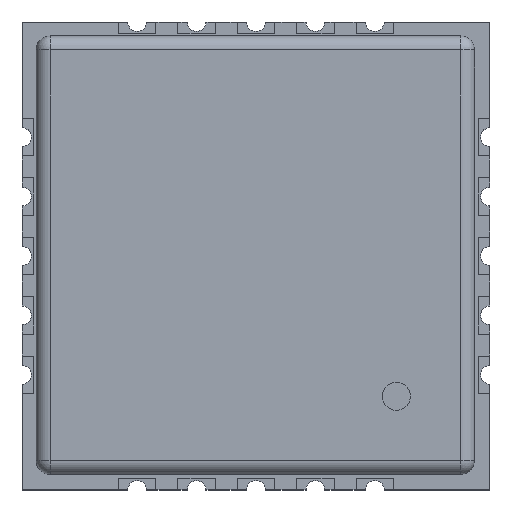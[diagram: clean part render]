
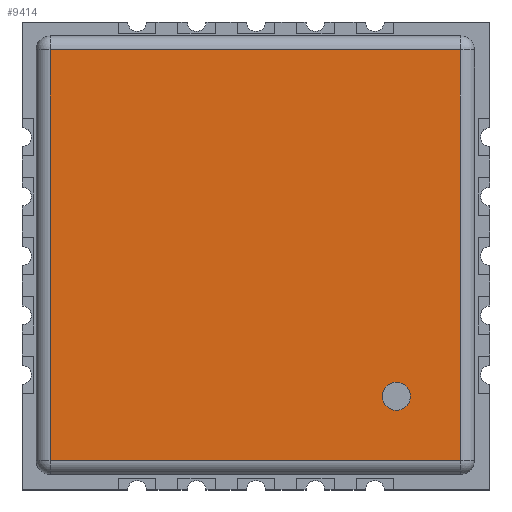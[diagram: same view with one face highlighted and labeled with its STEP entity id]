
A CAD part, top view. The second image highlights one B-rep face of the part: STEP entity #9414.
In plain terms, the highlighted planar face has unit normal (0, 0, 1).
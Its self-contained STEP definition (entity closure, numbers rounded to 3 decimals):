
#54=FACE_BOUND('',#3623,.T.);
#58=PLANE('',#10029);
#528=LINE('',#13313,#1761);
#532=LINE('',#13322,#1765);
#535=LINE('',#13326,#1768);
#541=LINE('',#13341,#1774);
#1761=VECTOR('',#10718,10.);
#1765=VECTOR('',#10728,10.);
#1768=VECTOR('',#10733,10.);
#1774=VECTOR('',#10749,10.);
#3077=FACE_OUTER_BOUND('',#3622,.T.);
#3622=EDGE_LOOP('',(#6626,#6627,#6628,#6629));
#3623=EDGE_LOOP('',(#6630));
#4171=CIRCLE('',#10030,0.3);
#4295=VERTEX_POINT('',#13288);
#4296=VERTEX_POINT('',#13292);
#4301=VERTEX_POINT('',#13302);
#4302=VERTEX_POINT('',#13306);
#4313=VERTEX_POINT('',#13353);
#5215=EDGE_CURVE('',#4302,#4301,#528,.T.);
#5220=EDGE_CURVE('',#4296,#4302,#532,.T.);
#5223=EDGE_CURVE('',#4301,#4295,#535,.T.);
#5231=EDGE_CURVE('',#4295,#4296,#541,.T.);
#5237=EDGE_CURVE('',#4313,#4313,#4171,.T.);
#6626=ORIENTED_EDGE('',*,*,#5215,.F.);
#6627=ORIENTED_EDGE('',*,*,#5220,.F.);
#6628=ORIENTED_EDGE('',*,*,#5231,.F.);
#6629=ORIENTED_EDGE('',*,*,#5223,.F.);
#6630=ORIENTED_EDGE('',*,*,#5237,.T.);
#9414=ADVANCED_FACE('',(#3077,#54),#58,.T.);
#10029=AXIS2_PLACEMENT_3D('',#13352,#10762,#10763);
#10030=AXIS2_PLACEMENT_3D('',#13354,#10764,#10765);
#10718=DIRECTION('',(0.,-1.,0.));
#10728=DIRECTION('',(1.,0.,0.));
#10733=DIRECTION('',(-1.,0.,0.));
#10749=DIRECTION('',(0.,1.,0.));
#10762=DIRECTION('center_axis',(0.,0.,1.));
#10763=DIRECTION('ref_axis',(1.,0.,0.));
#10764=DIRECTION('center_axis',(0.,0.,-1.));
#10765=DIRECTION('ref_axis',(-1.,0.,0.));
#13288=CARTESIAN_POINT('',(-4.4,-4.37,2.5));
#13292=CARTESIAN_POINT('',(-4.4,4.4,2.5));
#13302=CARTESIAN_POINT('',(4.37,-4.37,2.5));
#13306=CARTESIAN_POINT('',(4.37,4.4,2.5));
#13313=CARTESIAN_POINT('',(4.37,-1.977,2.5));
#13322=CARTESIAN_POINT('',(1.977,4.4,2.5));
#13326=CARTESIAN_POINT('',(-2.008,-4.37,2.5));
#13341=CARTESIAN_POINT('',(-4.4,2.008,2.5));
#13352=CARTESIAN_POINT('Origin',(-0.015,0.015,
2.5));
#13353=CARTESIAN_POINT('',(3.3,-3.,2.5));
#13354=CARTESIAN_POINT('Origin',(3.,-3.,2.5));
